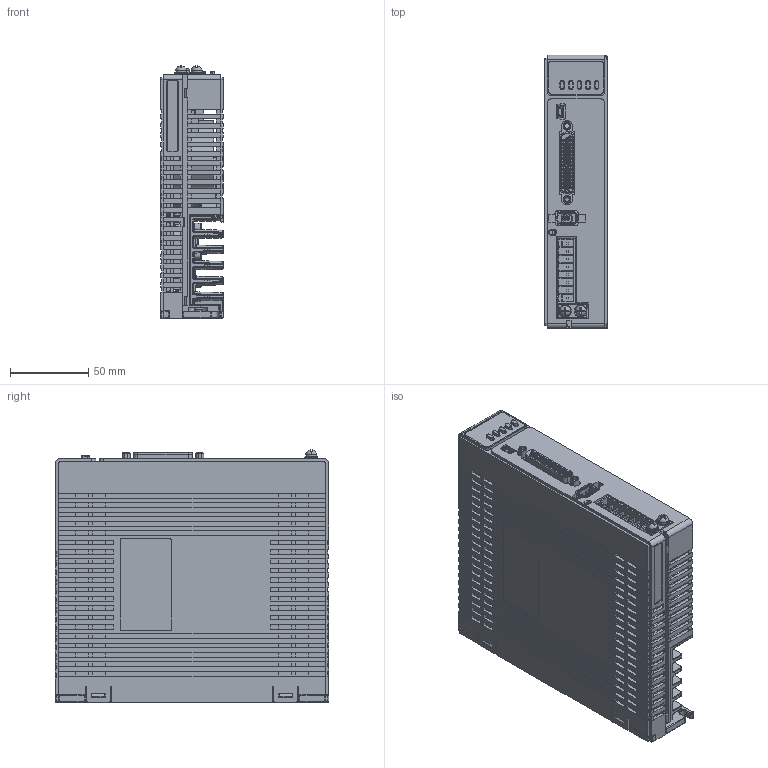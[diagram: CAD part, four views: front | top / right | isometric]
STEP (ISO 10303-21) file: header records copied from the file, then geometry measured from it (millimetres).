
FILE_DESCRIPTION((''),'2;1');
FILE_NAME('BREP_WITH_VOIDS_209691','2019-08-15T',('sunjun'),(''),'PRO/ENGINEER BY PARAMETRIC TECHNOLOGY CORPORATION, 2008090','PRO/ENGINEER BY PARAMETRIC TECHNOLOGY CORPORATION, 2008090','');
FILE_SCHEMA(('CONFIG_CONTROL_DESIGN'));
Products named in the file (1): BREP_WITH_VOIDS_209691
Bounding box: 40 x 175 x 161.49 mm (x, y, z)
Volume: 387559.4 mm3; surface area: 278864.5 mm2
Topology: 2 solids, 8 shells, 6083 faces, 16966 edges, 10677 vertices
Faces by surface type: plane 3614, cylinder 1400, bspline 350, torus 290, sphere 234, cone 181, extrusion 14
Entity records: 210903 total; most frequent: CARTESIAN_POINT 57018, ORIENTED_EDGE 33482, DIRECTION 30096, EDGE_CURVE 16741, VECTOR 11830, LINE 11816, VERTEX_POINT 10677, AXIS2_PLACEMENT_3D 9133
